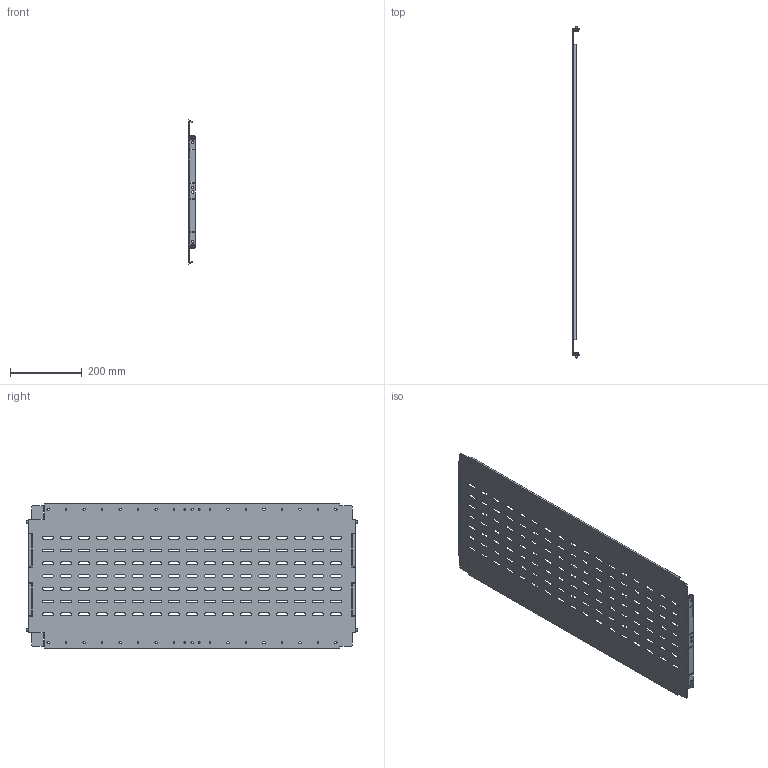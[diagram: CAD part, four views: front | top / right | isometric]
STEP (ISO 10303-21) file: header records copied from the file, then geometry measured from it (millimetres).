
FILE_DESCRIPTION (( 'STEP AP214' ), '1' );
FILE_NAME ('FO-00-SWV-040-100 Ïåðåãîðîäêà ñåêöèîíèðîâàíèÿ âåðòèêàëüíàÿ 400õ1000 ìì.STEP', '2025-09-18T14:26:21', ( '' ), ( '' ), 'SwSTEP 2.0', 'SolidWorks 2023', '' );
FILE_SCHEMA (( 'AUTOMOTIVE_DESIGN' ));
Length unit declared in the file: millimetre
Products named in the file (1): FO-00-SWV-040-100 Перегородка секционирования вертикальная 400х1000 мм
Bounding box: 17.5 x 921.9 x 400.39 mm (x, y, z)
Volume: 540621.6 mm3; surface area: 738670.6 mm2
Topology: 1 solids, 1 shells, 883 faces, 2607 edges, 1726 vertices
Faces by surface type: plane 436, cylinder 415, cone 16, torus 16
Entity records: 30430 total; most frequent: DIRECTION 5253, CARTESIAN_POINT 5217, ORIENTED_EDGE 5214, EDGE_CURVE 2607, AXIS2_PLACEMENT_3D 1762, LINE 1729, VECTOR 1729, VERTEX_POINT 1726
